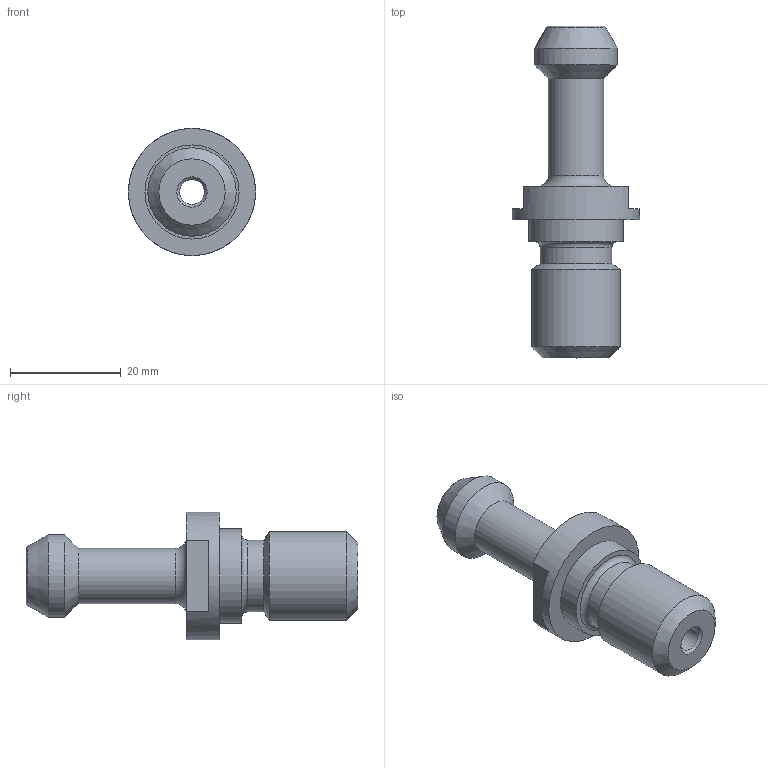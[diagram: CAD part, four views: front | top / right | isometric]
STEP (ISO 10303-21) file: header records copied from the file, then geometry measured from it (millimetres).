
FILE_DESCRIPTION(/* description */ (''),/* implementation_level */ '2;1');
FILE_NAME(/* name */ 'PS-BT40-45-HO.stp',/* time_stamp */ '2025-08-19T10:51:44+03:00',/* author */ ('User'),/* organization */ (''),/* preprocessor_version */ 'ST-DEVELOPER v19.2',/* originating_system */ 'Autodesk Inventor 2024',/* authorisation */ '');
FILE_SCHEMA (('AUTOMOTIVE_DESIGN { 1 0 10303 214 3 1 1 }'));
Length unit declared in the file: millimetre
Products named in the file (1): Штревель_BT40-45
Bounding box: 23 x 60 x 23 mm (x, y, z)
Volume: 9045.5 mm3; surface area: 4373.4 mm2
Topology: 1 solids, 1 shells, 25 faces, 54 edges, 34 vertices
Faces by surface type: plane 9, cylinder 7, cone 6, torus 3
Full cylindrical faces by diameter (mm): 4.5 x1, 10 x1, 13 x1, 15 x1, 16 x1, 17 x1, 23 x1
Entity records: 762 total; most frequent: DIRECTION 139, CARTESIAN_POINT 114, ORIENTED_EDGE 108, AXIS2_PLACEMENT_3D 59, EDGE_CURVE 54, VERTEX_POINT 34, CIRCLE 33, EDGE_LOOP 30
